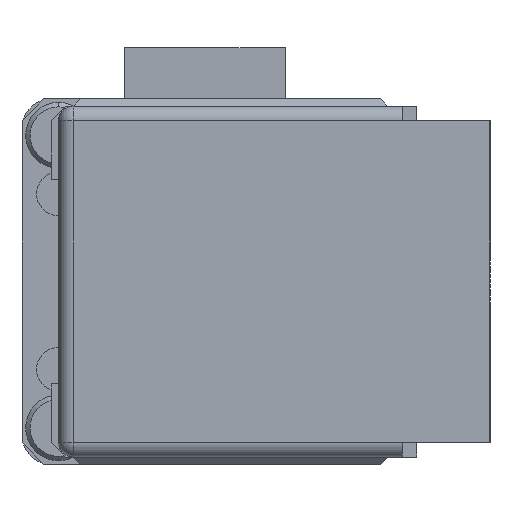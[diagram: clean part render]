
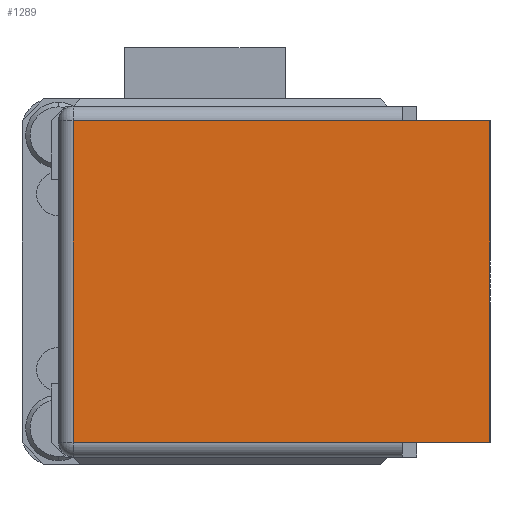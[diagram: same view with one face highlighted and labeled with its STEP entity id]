
A CAD part, left-side view. The second image highlights one B-rep face of the part: STEP entity #1289.
In plain terms, the highlighted planar face has unit normal (-1, 0, 0).
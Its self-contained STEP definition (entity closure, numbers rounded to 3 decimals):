
#97 = VECTOR ( 'NONE', #820, 1000. ) ;
#372 = FACE_OUTER_BOUND ( 'NONE', #6849, .T. ) ;
#397 = DIRECTION ( 'NONE',  ( 0., -1., 0. ) ) ;
#471 = AXIS2_PLACEMENT_3D ( 'NONE', #1724, #800, #775 ) ;
#775 = DIRECTION ( 'NONE',  ( 0., 0., -1. ) ) ;
#800 = DIRECTION ( 'NONE',  ( 1., 0., 0. ) ) ;
#820 = DIRECTION ( 'NONE',  ( 0., 0., 1. ) ) ;
#1289 = ADVANCED_FACE ( 'NONE', ( #372 ), #7059, .F. ) ;
#1511 = CARTESIAN_POINT ( 'NONE',  ( 0., 6., 11. ) ) ;
#1517 = VERTEX_POINT ( 'NONE', #1793 ) ;
#1659 = LINE ( 'NONE', #6385, #97 ) ;
#1724 = CARTESIAN_POINT ( 'NONE',  ( 0., 6., 11. ) ) ;
#1790 = VERTEX_POINT ( 'NONE', #4182 ) ;
#1793 = CARTESIAN_POINT ( 'NONE',  ( 0., 0., -11. ) ) ;
#1797 = EDGE_CURVE ( 'NONE', #5704, #5976, #7255, .T. ) ;
#1943 = VERTEX_POINT ( 'NONE', #5437 ) ;
#2333 = VERTEX_POINT ( 'NONE', #6714 ) ;
#2461 = VECTOR ( 'NONE', #6632, 1000. ) ;
#2576 = DIRECTION ( 'NONE',  ( 0., 1., 0. ) ) ;
#2594 = CARTESIAN_POINT ( 'NONE',  ( 0., 6., 11. ) ) ;
#2641 = VECTOR ( 'NONE', #4933, 1000. ) ;
#2852 = EDGE_CURVE ( 'NONE', #1943, #1517, #7017, .T. ) ;
#2889 = EDGE_CURVE ( 'NONE', #5976, #2333, #3939, .T. ) ;
#2947 = VECTOR ( 'NONE', #397, 1000. ) ;
#3182 = ORIENTED_EDGE ( 'NONE', *, *, #2889, .T. ) ;
#3283 = ORIENTED_EDGE ( 'NONE', *, *, #1797, .T. ) ;
#3375 = LINE ( 'NONE', #2594, #4673 ) ;
#3939 = LINE ( 'NONE', #6367, #2461 ) ;
#4132 = CARTESIAN_POINT ( 'NONE',  ( 0., 6., 11. ) ) ;
#4182 = CARTESIAN_POINT ( 'NONE',  ( 0., 0., 11. ) ) ;
#4305 = EDGE_CURVE ( 'NONE', #1517, #1790, #1659, .T. ) ;
#4402 = LINE ( 'NONE', #4904, #2947 ) ;
#4673 = VECTOR ( 'NONE', #6454, 1000. ) ;
#4740 = ORIENTED_EDGE ( 'NONE', *, *, #6923, .F. ) ;
#4904 = CARTESIAN_POINT ( 'NONE',  ( 0., 6., -11. ) ) ;
#4933 = DIRECTION ( 'NONE',  ( 0., -1., 0. ) ) ;
#5437 = CARTESIAN_POINT ( 'NONE',  ( 0., 6., -11. ) ) ;
#5533 = CARTESIAN_POINT ( 'NONE',  ( 0., 6., -11. ) ) ;
#5704 = VERTEX_POINT ( 'NONE', #4132 ) ;
#5810 = VECTOR ( 'NONE', #2576, 1000. ) ;
#5944 = ORIENTED_EDGE ( 'NONE', *, *, #4305, .T. ) ;
#5976 = VERTEX_POINT ( 'NONE', #6085 ) ;
#6059 = ORIENTED_EDGE ( 'NONE', *, *, #7144, .T. ) ;
#6085 = CARTESIAN_POINT ( 'NONE',  ( 0., 28.5, 11. ) ) ;
#6125 = ORIENTED_EDGE ( 'NONE', *, *, #2852, .T. ) ;
#6367 = CARTESIAN_POINT ( 'NONE',  ( 0., 28.5, 11. ) ) ;
#6385 = CARTESIAN_POINT ( 'NONE',  ( 0., 0., 11. ) ) ;
#6454 = DIRECTION ( 'NONE',  ( 0., -1., 0. ) ) ;
#6632 = DIRECTION ( 'NONE',  ( 0., 0., -1. ) ) ;
#6714 = CARTESIAN_POINT ( 'NONE',  ( 0., 28.5, -11. ) ) ;
#6849 = EDGE_LOOP ( 'NONE', ( #3182, #6059, #6125, #5944, #4740, #3283 ) ) ;
#6923 = EDGE_CURVE ( 'NONE', #5704, #1790, #3375, .T. ) ;
#7017 = LINE ( 'NONE', #5533, #2641 ) ;
#7059 = PLANE ( 'NONE',  #471 ) ;
#7144 = EDGE_CURVE ( 'NONE', #2333, #1943, #4402, .T. ) ;
#7255 = LINE ( 'NONE', #1511, #5810 ) ;
